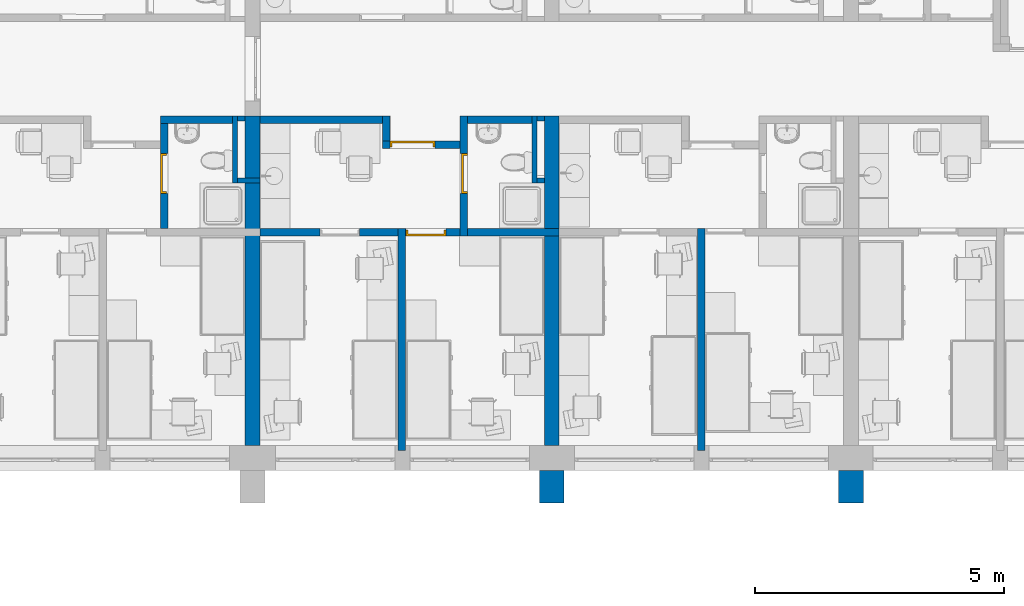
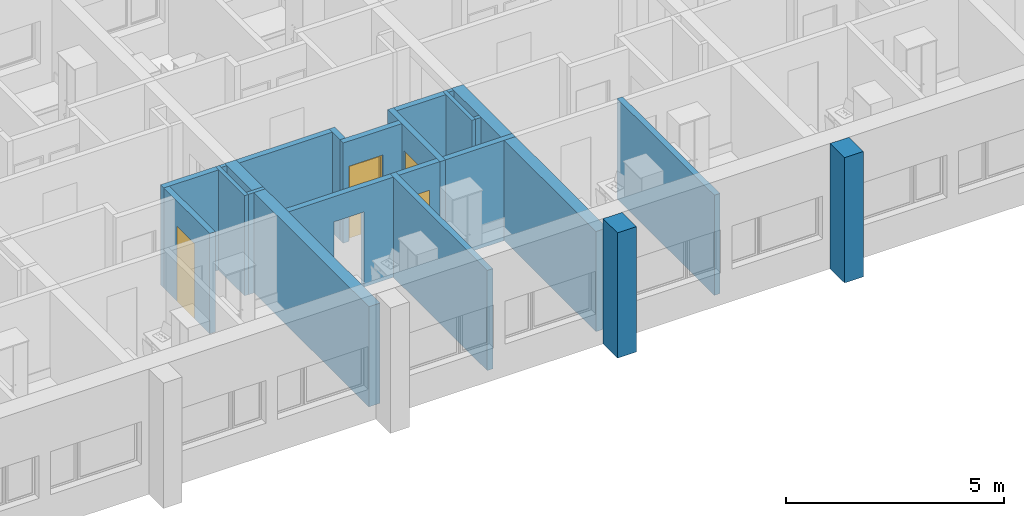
# One storey, part 6 of 152: 20 walls, 4 doors, 5 openings.
"""IFC2X3 building model written with IfcOpenShell, lengths in millimetres."""

from ifc_helpers import new_model, entity, si_unit, converted_unit, money_unit, direction, frame, origin_with_axes, place, context, subcontext, project, spatial, polyline, outline, extrude, faceted_brep, source, transform, mapped, material, material_list, layer, layer_set, layer_usage, type_object, element, fill, save


model = new_model("IFC2X3")

# Units and contexts
model_context = context("Model", 3, precision=1e-05, world=origin_with_axes(), true_north=direction((0.0, 1.0)))
body_context = subcontext(model_context, "Body", "Model", "MODEL_VIEW")
ifc_project = project(units=[si_unit("LENGTHUNIT", "METRE", prefix="MILLI"), si_unit("AREAUNIT", "SQUARE_METRE"), si_unit("VOLUMEUNIT", "CUBIC_METRE"), converted_unit("PLANEANGLEUNIT", "DEGREE", entity("IfcPlaneAngleMeasure", 0.0174532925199), si_unit("PLANEANGLEUNIT", "RADIAN"), dimensions=[0, 0, 0, 0, 0, 0, 0]), si_unit("SOLIDANGLEUNIT", "STERADIAN"), money_unit("USD"), converted_unit("TIMEUNIT", "Year", entity("IfcTimeMeasure", 31556926.0), si_unit("TIMEUNIT", "SECOND"), dimensions=[0, 0, 0, 0, 0, 0, 0]), si_unit("MASSUNIT", "GRAM"), si_unit("THERMODYNAMICTEMPERATUREUNIT", "DEGREE_CELSIUS"), si_unit("LUMINOUSINTENSITYUNIT", "LUMEN")], contexts=[model_context])

# Site, building, storey
site_placement = place(None, origin_with_axes())
site = spatial("IfcSite", under=ifc_project, at=site_placement, Name="Site", CompositionType="ELEMENT")
building_placement = place(site_placement, origin_with_axes())
building = spatial("IfcBuilding", under=site, at=building_placement, Name="Building", CompositionType="ELEMENT")
storey_placement = place(building_placement, frame((0.0, 0.0, 9500.0), z_axis=(0.0, 0.0, 1.0), x_axis=(1.0, 0.0, 0.0)))
storey = spatial("IfcBuildingStorey", under=building, at=storey_placement, Name="5KORRUS", CompositionType="ELEMENT", Elevation=9500.0)

# Walls
ifc_material_1 = material(Name="Olemasolevad seinad tellis, uus viimistlus")
ifc_layer_1 = layer(ifc_material_1, 500.0, ventilated="UNKNOWN")
ifc_layer_set_1 = layer_set([ifc_layer_1], Name="Olemasolevad seinad tellis, uus viimistlus 500")
ifc_layer_usage_1 = layer_usage(ifc_layer_set_1, "AXIS2", "POSITIVE", -100.0)
wall_type_1 = type_object("IfcWallType", Name="Olemasolevad seinad tellis, uus viimistlus 500", PredefinedType="NOTDEFINED")
wall_1_placement = place(storey_placement, frame((-23990.2967033, -20796.6419407, 0.0), z_axis=(0.0, 0.0, 1.0), x_axis=(0.0, 1.0, 0.0)))
element("IfcWallStandardCase", 1, at=wall_1_placement, inside=storey, type_object=wall_type_1, material=ifc_layer_usage_1, Name="VS1", ObjectType="VS1", context=body_context, shape_type="SweptSolid", body=[
    extrude(outline(polyline([(0.0, -100.0), (657.402041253, -100.0), (657.402041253, 400.0), (0.0, 400.0), (0.0, -100.0)])), origin_with_axes(), (0.0, 0.0, 1.0), 3500.0),
])
ifc_layer_usage_2 = layer_usage(ifc_layer_set_1, "AXIS2", "POSITIVE", -100.0)
wall_2_placement = place(storey_placement, frame((-29990.2967033, -20796.6419407, 0.0), z_axis=(0.0, 0.0, 1.0), x_axis=(0.0, 1.0, 0.0)))
element("IfcWallStandardCase", 2, at=wall_2_placement, inside=storey, type_object=wall_type_1, material=ifc_layer_usage_2, Name="VS1", ObjectType="VS1", context=body_context, shape_type="SweptSolid", body=[
    extrude(outline(polyline([(0.0, -100.0), (657.402041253, -100.0), (657.402041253, 400.0), (0.0, 400.0), (0.0, -100.0)])), origin_with_axes(), (0.0, 0.0, 1.0), 3500.0),
])
ifc_material_2 = material(Name="IFC Building Material")
ifc_layer_2 = layer(ifc_material_2, 150.0, ventilated="UNKNOWN")
ifc_layer_set_2 = layer_set([ifc_layer_2], Name="IFC Building Material 150")
ifc_layer_usage_3 = layer_usage(ifc_layer_set_2, "AXIS2", "POSITIVE", -150.0)
wall_type_2 = type_object("IfcWallType", Name="kipssein150 150", PredefinedType="NOTDEFINED")
wall_3_placement = place(storey_placement, frame((-31834.201689, -13039.3705726, 0.0), z_axis=(0.0, 0.0, 1.0), x_axis=(1.0, 0.0, 0.0)))
element("IfcWallStandardCase", 3, at=wall_3_placement, inside=storey, type_object=wall_type_2, material=ifc_layer_usage_3, Name="SS1", ObjectType="SS1", context=body_context, shape_type="SweptSolid", body=[
    extrude(outline(polyline([(0.0, -150.0), (1400.19338105, -150.0), (1400.19338105, 0.0), (0.0, 0.0), (0.0, -150.0)])), origin_with_axes(), (0.0, 0.0, 1.0), 2800.0),
])

# Wall, opening, door
ifc_layer_usage_4 = layer_usage(ifc_layer_set_2, "AXIS2", "POSITIVE", 0.0)
wall_4_placement = place(storey_placement, frame((-31984.201689, -13539.4524083, 0.0), z_axis=(0.0, 0.0, 1.0), x_axis=(-1.0, 0.0, 0.0)))
wall_4 = element("IfcWallStandardCase", 4, at=wall_4_placement, inside=storey, type_object=wall_type_2, material=ifc_layer_usage_4, Name="SS1", ObjectType="SS1", context=body_context, shape_type="SweptSolid", body=[
    extrude(outline(polyline([(0.0, 0.0), (1549.66067938, 0.0), (1549.66067938, 150.0), (0.0, 150.0), (0.0, 0.0)])), origin_with_axes(), (0.0, 0.0, 1.0), 2800.0),
])
opening_1_placement = place(wall_4_placement, frame((949.660679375, 0.0, 0.0), z_axis=(0.0, 0.0, 1.0), x_axis=(1.0, 0.0, 0.0)))
opening_1 = element("IfcOpeningElement", 5, at=opening_1_placement, cuts=wall_4, Name="SU2-6", context=body_context, shape_type="SweptSolid", body=[
    extrude(outline(polyline([(-450.0, -2100.0), (450.0, -2100.0), (450.0, 0.0), (-450.0, 0.0), (-450.0, -2100.0)])), frame((0.0, 150.0, 0.0), z_axis=(0.0, 1.0, 0.0), x_axis=(1.0, 0.0, 0.0)), (0.0, 0.0, -1.0), 450.0),
])
ifc_material_3 = material(Name="Background")
ifc_material_list = material_list([ifc_material_3])
door_style_1 = type_object("IfcDoorStyle", Name="Door 19", ConstructionType="NOTDEFINED", OperationType="SINGLE_SWING_LEFT", ParameterTakesPrecedence=False, Sizeable=False)
shared_shape_1 = source(origin_with_axes(), body_context, "Body", "Brep", [
    faceted_brep([(410.0, -40.0, 0.0), (410.0, -115.0, 0.0), (410.0, -115.0, 2060.0), (410.0, -40.0, 2060.0), (422.0, -40.0, 0.0), (422.0, 0.0, 0.0), (450.0, 0.0, 0.0), (450.0, -115.0, 0.0), (450.0, -115.0, 2060.0), (422.0, -40.0, 2060.0), (450.0, 0.0, 2060.0), (422.0, 0.0, 2060.0)], [[[0, 1, 2, 3]], [[4, 5, 6, 7, 1, 0]], [[2, 1, 7, 8]], [[9, 3, 2, 8, 10, 11]], [[9, 4, 0, 3]], [[11, 5, 4, 9]], [[11, 10, 6, 5]], [[7, 6, 10, 8]]]),
    faceted_brep([(-422.0, -40.0, 2060.0), (-422.0, 0.0, 2060.0), (-450.0, 0.0, 2060.0), (-450.0, -115.0, 2060.0), (-410.0, -115.0, 2060.0), (-410.0, -40.0, 2060.0), (-422.0, -40.0, 0.0), (-422.0, 0.0, 0.0), (-450.0, 0.0, 0.0), (-450.0, -115.0, 0.0), (-410.0, -115.0, 0.0), (-410.0, -40.0, 0.0)], [[[0, 1, 2, 3, 4, 5]], [[0, 6, 7, 1]], [[7, 8, 2, 1]], [[3, 2, 8, 9]], [[4, 3, 9, 10]], [[5, 4, 10, 11]], [[5, 11, 6, 0]], [[6, 11, 10, 9, 8, 7]]]),
    faceted_brep([(422.0, 0.0, 2072.0), (-422.0, 0.0, 2072.0), (-422.0, 0.0, 2060.0), (-450.0, 0.0, 2060.0), (-450.0, 0.0, 2100.0), (450.0, 0.0, 2100.0), (450.0, 0.0, 2060.0), (422.0, 0.0, 2060.0), (422.0, -40.0, 2072.0), (-422.0, -40.0, 2072.0), (-422.0, -40.0, 2060.0), (-410.0, -40.0, 2060.0), (-410.0, -115.0, 2060.0), (-450.0, -115.0, 2060.0), (-450.0, -115.0, 2100.0), (450.0, -115.0, 2100.0), (450.0, -115.0, 2060.0), (422.0, -40.0, 2060.0), (410.0, -115.0, 2060.0), (410.0, -40.0, 2060.0)], [[[0, 1, 2, 3, 4, 5, 6, 7]], [[0, 8, 9, 1]], [[1, 9, 10, 2]], [[10, 11, 12, 13, 3, 2]], [[14, 4, 3, 13]], [[15, 5, 4, 14]], [[16, 6, 5, 15]], [[17, 7, 6, 16, 18, 19]], [[7, 17, 8, 0]], [[10, 9, 8, 17, 19, 11]], [[19, 18, 12, 11]], [[13, 12, 18, 16, 15, 14]]]),
    faceted_brep([(-422.0, 0.0, 0.0), (422.0, 0.0, 0.0), (422.0, -40.0, 0.0), (-422.0, -40.0, 0.0), (-422.0, 0.0, 2072.0), (422.0, 0.0, 2072.0), (422.0, -40.0, 2072.0), (-422.0, -40.0, 2072.0)], [[[0, 1, 2, 3]], [[0, 4, 5, 1]], [[1, 5, 6, 2]], [[3, 2, 6, 7]], [[4, 0, 3, 7]], [[5, 4, 7, 6]]]),
])
door_1_placement = place(opening_1_placement, frame((450.0, 0.0, 0.0), z_axis=(0.0, 0.0, 1.0), x_axis=(-1.0, 0.0, 0.0)))
door_1 = element("IfcDoor", 6, at=door_1_placement, inside=storey, type_object=door_style_1, material=ifc_material_list, Name="SU2-6", ObjectType="Korteri välisuks", OverallHeight=2100.0, OverallWidth=900.0, context=body_context, shape_type="MappedRepresentation", body=[
    mapped(shared_shape_1, transform((450.0, 0.0, 0.0))),
])
fill(opening_1, door_1)

ifc_layer_usage_5 = layer_usage(ifc_layer_set_2, "AXIS2", "POSITIVE", -150.0)
wall_5_placement = place(storey_placement, frame((-31834.201689, -13039.3705726, 0.0), z_axis=(0.0, 0.0, 1.0), x_axis=(0.0, -1.0, 0.0)))
wall_5 = element("IfcWallStandardCase", 7, at=wall_5_placement, inside=storey, type_object=wall_type_2, material=ifc_layer_usage_5, Name="SS1", ObjectType="SS1", context=body_context, shape_type="SweptSolid", body=[
    extrude(outline(polyline([(0.0, -150.0), (2399.86932682, -150.0), (2399.86932682, 0.0), (0.0, 0.0), (0.0, -150.0)])), origin_with_axes(), (0.0, 0.0, 1.0), 2800.0),
])
opening_2_placement = place(wall_5_placement, frame((1150.0818357, 0.0, 0.0), z_axis=(0.0, 0.0, 1.0), x_axis=(1.0, 0.0, 0.0)))
opening_2 = element("IfcOpeningElement", 8, at=opening_2_placement, cuts=wall_5, Name="SU3-2", context=body_context, shape_type="SweptSolid", body=[
    extrude(outline(polyline([(-400.0, 0.0), (400.0, 0.0), (400.0, 2100.0), (-400.0, 2100.0), (-400.0, 0.0)])), frame((0.0, -150.0, 0.0), z_axis=(0.0, 1.0, 0.0), x_axis=(-1.0, 0.0, 0.0)), (0.0, 0.0, 1.0), 450.0),
])
door_style_2 = type_object("IfcDoorStyle", Name="Door 19", ConstructionType="NOTDEFINED", OperationType="SINGLE_SWING_RIGHT", ParameterTakesPrecedence=False, Sizeable=False)
shared_shape_2 = source(origin_with_axes(), body_context, "Body", "Brep", [
    faceted_brep([(-360.0, -75.0, 0.0), (-360.0, -75.0, 2060.0), (-360.0, -150.0, 2060.0), (-360.0, -150.0, 0.0), (-372.0, -75.0, 2060.0), (-372.0, -75.0, 0.0), (-372.0, -35.0, 2060.0), (-400.0, -35.0, 2060.0), (-400.0, -150.0, 2060.0), (-400.0, -150.0, 0.0), (-400.0, -35.0, 0.0), (-372.0, -35.0, 0.0)], [[[0, 1, 2, 3]], [[4, 1, 0, 5]], [[4, 6, 7, 8, 2, 1]], [[2, 8, 9, 3]], [[5, 0, 3, 9, 10, 11]], [[6, 4, 5, 11]], [[6, 11, 10, 7]], [[9, 8, 7, 10]]]),
    faceted_brep([(372.0, -75.0, 2060.0), (360.0, -75.0, 2060.0), (360.0, -150.0, 2060.0), (400.0, -150.0, 2060.0), (400.0, -35.0, 2060.0), (372.0, -35.0, 2060.0), (372.0, -75.0, 0.0), (360.0, -75.0, 0.0), (360.0, -150.0, 0.0), (400.0, -150.0, 0.0), (400.0, -35.0, 0.0), (372.0, -35.0, 0.0)], [[[0, 1, 2, 3, 4, 5]], [[1, 0, 6, 7]], [[1, 7, 8, 2]], [[2, 8, 9, 3]], [[3, 9, 10, 4]], [[11, 5, 4, 10]], [[0, 5, 11, 6]], [[6, 11, 10, 9, 8, 7]]]),
    faceted_brep([(-372.0, -35.0, 2072.0), (-372.0, -35.0, 2060.0), (-400.0, -35.0, 2060.0), (-400.0, -35.0, 2100.0), (400.0, -35.0, 2100.0), (400.0, -35.0, 2060.0), (372.0, -35.0, 2060.0), (372.0, -35.0, 2072.0), (-372.0, -75.0, 2072.0), (-372.0, -75.0, 2060.0), (-360.0, -75.0, 2060.0), (-360.0, -150.0, 2060.0), (-400.0, -150.0, 2060.0), (-400.0, -150.0, 2100.0), (400.0, -150.0, 2100.0), (400.0, -150.0, 2060.0), (372.0, -75.0, 2060.0), (360.0, -150.0, 2060.0), (360.0, -75.0, 2060.0), (372.0, -75.0, 2072.0)], [[[0, 1, 2, 3, 4, 5, 6, 7]], [[1, 0, 8, 9]], [[9, 10, 11, 12, 2, 1]], [[12, 13, 3, 2]], [[13, 14, 4, 3]], [[14, 15, 5, 4]], [[16, 6, 5, 15, 17, 18]], [[7, 6, 16, 19]], [[0, 7, 19, 8]], [[16, 18, 10, 9, 8, 19]], [[10, 18, 17, 11]], [[15, 14, 13, 12, 11, 17]]]),
    faceted_brep([(372.0, -35.0, 0.0), (372.0, -75.0, 0.0), (-372.0, -75.0, 0.0), (-372.0, -35.0, 0.0), (372.0, -35.0, 2072.0), (372.0, -75.0, 2072.0), (-372.0, -75.0, 2072.0), (-372.0, -35.0, 2072.0)], [[[0, 1, 2, 3]], [[4, 5, 1, 0]], [[1, 5, 6, 2]], [[3, 2, 6, 7]], [[0, 3, 7, 4]], [[7, 6, 5, 4]]]),
])
door_2_placement = place(opening_2_placement, frame((400.0, 0.0, 0.0), z_axis=(0.0, 0.0, 1.0), x_axis=(-1.0, 0.0, 0.0)))
door_2 = element("IfcDoor", 9, at=door_2_placement, inside=storey, type_object=door_style_2, material=ifc_material_list, Name="SU3-2", ObjectType="WC-uks", OverallHeight=2100.0, OverallWidth=800.0, context=body_context, shape_type="MappedRepresentation", body=[
    mapped(shared_shape_2, transform((400.0, 150.0, 0.0))),
])
fill(opening_2, door_2)

# Walls
ifc_layer_usage_6 = layer_usage(ifc_layer_set_2, "AXIS2", "POSITIVE", 0.0)
wall_6_placement = place(storey_placement, frame((-33533.8623684, -13039.2398994, 0.0), z_axis=(0.0, 0.0, 1.0), x_axis=(0.0, -1.0, 0.0)))
element("IfcWallStandardCase", 10, at=wall_6_placement, inside=storey, type_object=wall_type_2, material=ifc_layer_usage_6, Name="SS1", ObjectType="SS1", context=body_context, shape_type="SweptSolid", body=[
    extrude(outline(polyline([(0.0, 0.0), (500.212508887, 0.0), (500.212508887, 150.0), (0.0, 150.0), (0.0, 0.0)])), origin_with_axes(), (0.0, 0.0, 1.0), 2800.0),
])
ifc_layer_usage_7 = layer_usage(ifc_layer_set_2, "AXIS2", "POSITIVE", 0.0)
wall_7_placement = place(storey_placement, frame((-33533.8623684, -13039.2398994, 0.0), z_axis=(0.0, 0.0, 1.0), x_axis=(-1.0, 0.0, 0.0)))
element("IfcWallStandardCase", 11, at=wall_7_placement, inside=storey, type_object=wall_type_2, material=ifc_layer_usage_7, Name="SS1", ObjectType="SS1", context=body_context, shape_type="SweptSolid", body=[
    extrude(outline(polyline([(0.0, 0.0), (2456.43433493, 0.0), (2456.43433493, 150.0), (0.0, 150.0), (0.0, 0.0)])), origin_with_axes(), (0.0, 0.0, 1.0), 2800.0),
])
ifc_material_4 = material(Name="UmbKipsplaat")
ifc_layer_3 = layer(ifc_material_4, 13.0, ventilated="UNKNOWN")
ifc_layer_4 = layer(ifc_material_4, 13.0, ventilated="UNKNOWN")
ifc_material_5 = material(Name="SOOJUSTUS MINERAALVILL")
ifc_layer_5 = layer(ifc_material_5, 98.0, ventilated="UNKNOWN")
ifc_layer_6 = layer(ifc_material_4, 13.0, ventilated="UNKNOWN")
ifc_layer_7 = layer(ifc_material_4, 13.0, ventilated="UNKNOWN")
ifc_layer_set_3 = layer_set([ifc_layer_3, ifc_layer_4, ifc_layer_5, ifc_layer_6, ifc_layer_7], Name="kipssein150")
ifc_layer_usage_8 = layer_usage(ifc_layer_set_3, "AXIS2", "POSITIVE", 0.0)
wall_8_placement = place(storey_placement, frame((-27070.2967033, -19739.2398994, 0.0), z_axis=(0.0, 0.0, 1.0), x_axis=(0.0, 1.0, 0.0)))
element("IfcWallStandardCase", 12, at=wall_8_placement, inside=storey, type_object=wall_type_2, material=ifc_layer_usage_8, Name="SS1", ObjectType="SS1", context=body_context, shape_type="SweptSolid", body=[
    extrude(outline(polyline([(0.0, 0.0), (4453.1224396, 0.0), (4453.1224396, 150.0), (0.0, 150.0), (0.0, 0.0)])), origin_with_axes(), (0.0, 0.0, 1.0), 2800.0),
])
ifc_layer_usage_9 = layer_usage(ifc_layer_set_2, "AXIS2", "POSITIVE", 0.0)
wall_9_placement = place(storey_placement, frame((-33070.2967033, -19739.2398994, 0.0), z_axis=(0.0, 0.0, 1.0), x_axis=(0.0, 1.0, 0.0)))
element("IfcWallStandardCase", 13, at=wall_9_placement, inside=storey, type_object=wall_type_2, material=ifc_layer_usage_9, Name="SS1", ObjectType="SS1", context=body_context, shape_type="SweptSolid", body=[
    extrude(outline(polyline([(0.0, 0.0), (4450.0, 0.0), (4450.0, 150.0), (0.0, 150.0), (0.0, 0.0)])), origin_with_axes(), (0.0, 0.0, 1.0), 2800.0),
])

# Wall, openings, door
ifc_layer_usage_10 = layer_usage(ifc_layer_set_2, "AXIS2", "POSITIVE", -150.0)
wall_10_placement = place(storey_placement, frame((-29990.2967033, -15439.2398994, 0.0), z_axis=(0.0, 0.0, 1.0), x_axis=(-1.0, 0.0, 0.0)))
wall_10 = element("IfcWallStandardCase", 14, at=wall_10_placement, inside=storey, type_object=wall_type_2, material=ifc_layer_usage_10, Name="SS1", ObjectType="SS1", context=body_context, shape_type="SweptSolid", body=[
    extrude(outline(polyline([(0.0, -150.0), (6000.0, -150.0), (6000.0, 0.0), (0.0, 0.0), (0.0, -150.0)])), origin_with_axes(), (0.0, 0.0, 1.0), 2800.0),
])
opening_3_placement = place(wall_10_placement, frame((4400.0, 0.0, 0.0), z_axis=(0.0, 0.0, 1.0), x_axis=(1.0, 0.0, 0.0)))
element("IfcOpeningElement", 15, at=opening_3_placement, cuts=wall_10, Name="SU3-5", context=body_context, shape_type="SweptSolid", body=[
    extrude(outline(polyline([(-400.0, -2100.0), (400.0, -2100.0), (400.0, 0.0), (-400.0, 0.0), (-400.0, -2100.0)])), frame((0.0, -1750.0, 0.0), z_axis=(0.0, -1.0, 0.0), x_axis=(-1.0, 0.0, 0.0)), (0.0, 0.0, -1.0), 3200.0),
])
opening_4_placement = place(wall_10_placement, frame((2675.0, 0.0, 0.0), z_axis=(0.0, 0.0, 1.0), x_axis=(1.0, 0.0, 0.0)))
opening_4 = element("IfcOpeningElement", 16, at=opening_4_placement, cuts=wall_10, Name="SU3-4", context=body_context, shape_type="SweptSolid", body=[
    extrude(outline(polyline([(-400.0, -2100.0), (400.0, -2100.0), (400.0, 0.0), (-400.0, 0.0), (-400.0, -2100.0)])), frame((0.0, -150.0, 0.0), z_axis=(0.0, 1.0, 0.0), x_axis=(1.0, 0.0, 0.0)), (0.0, 0.0, 1.0), 450.0),
])
door_style_3 = type_object("IfcDoorStyle", Name="Door 19", ConstructionType="NOTDEFINED", OperationType="SINGLE_SWING_RIGHT", ParameterTakesPrecedence=False, Sizeable=False)
shared_shape_3 = source(origin_with_axes(), body_context, "Body", "Brep", [
    faceted_brep([(-360.0, -40.0, 0.0), (-360.0, -40.0, 2060.0), (-360.0, -115.0, 2060.0), (-360.0, -115.0, 0.0), (-372.0, -40.0, 2060.0), (-372.0, -40.0, 0.0), (-372.0, 0.0, 2060.0), (-400.0, 0.0, 2060.0), (-400.0, -115.0, 2060.0), (-400.0, -115.0, 0.0), (-400.0, 0.0, 0.0), (-372.0, 0.0, 0.0)], [[[0, 1, 2, 3]], [[4, 1, 0, 5]], [[4, 6, 7, 8, 2, 1]], [[2, 8, 9, 3]], [[5, 0, 3, 9, 10, 11]], [[6, 4, 5, 11]], [[6, 11, 10, 7]], [[9, 8, 7, 10]]]),
    faceted_brep([(372.0, -40.0, 2060.0), (360.0, -40.0, 2060.0), (360.0, -115.0, 2060.0), (400.0, -115.0, 2060.0), (400.0, 0.0, 2060.0), (372.0, 0.0, 2060.0), (372.0, -40.0, 0.0), (360.0, -40.0, 0.0), (360.0, -115.0, 0.0), (400.0, -115.0, 0.0), (400.0, 0.0, 0.0), (372.0, 0.0, 0.0)], [[[0, 1, 2, 3, 4, 5]], [[1, 0, 6, 7]], [[1, 7, 8, 2]], [[2, 8, 9, 3]], [[3, 9, 10, 4]], [[11, 5, 4, 10]], [[0, 5, 11, 6]], [[6, 11, 10, 9, 8, 7]]]),
    faceted_brep([(-372.0, 0.0, 2072.0), (-372.0, 0.0, 2060.0), (-400.0, 0.0, 2060.0), (-400.0, 0.0, 2100.0), (400.0, 0.0, 2100.0), (400.0, 0.0, 2060.0), (372.0, 0.0, 2060.0), (372.0, 0.0, 2072.0), (-372.0, -40.0, 2072.0), (-372.0, -40.0, 2060.0), (-360.0, -40.0, 2060.0), (-360.0, -115.0, 2060.0), (-400.0, -115.0, 2060.0), (-400.0, -115.0, 2100.0), (400.0, -115.0, 2100.0), (400.0, -115.0, 2060.0), (372.0, -40.0, 2060.0), (360.0, -115.0, 2060.0), (360.0, -40.0, 2060.0), (372.0, -40.0, 2072.0)], [[[0, 1, 2, 3, 4, 5, 6, 7]], [[1, 0, 8, 9]], [[9, 10, 11, 12, 2, 1]], [[12, 13, 3, 2]], [[13, 14, 4, 3]], [[14, 15, 5, 4]], [[16, 6, 5, 15, 17, 18]], [[7, 6, 16, 19]], [[0, 7, 19, 8]], [[16, 18, 10, 9, 8, 19]], [[10, 18, 17, 11]], [[15, 14, 13, 12, 11, 17]]]),
    faceted_brep([(372.0, 0.0, 0.0), (372.0, -40.0, 0.0), (-372.0, -40.0, 0.0), (-372.0, 0.0, 0.0), (372.0, 0.0, 2072.0), (372.0, -40.0, 2072.0), (-372.0, -40.0, 2072.0), (-372.0, 0.0, 2072.0)], [[[0, 1, 2, 3]], [[4, 5, 1, 0]], [[1, 5, 6, 2]], [[3, 2, 6, 7]], [[0, 3, 7, 4]], [[7, 6, 5, 4]]]),
])
door_3_placement = place(opening_4_placement, frame((-400.0, 0.0, 0.0), z_axis=(0.0, 0.0, 1.0), x_axis=(1.0, 0.0, 0.0)))
door_3 = element("IfcDoor", 17, at=door_3_placement, inside=storey, type_object=door_style_3, material=ifc_material_list, Name="SU3-4", ObjectType="Toa uks", OverallHeight=2100.0, OverallWidth=800.0, context=body_context, shape_type="MappedRepresentation", body=[
    mapped(shared_shape_3, transform((400.0, 0.0, 0.0))),
])
fill(opening_4, door_3)

# Wall, opening, door
ifc_layer_usage_11 = layer_usage(ifc_layer_set_3, "AXIS2", "POSITIVE", -150.0)
wall_11_placement = place(storey_placement, frame((-37984.201689, -15289.2398994, 0.0), z_axis=(0.0, 0.0, 1.0), x_axis=(0.0, 1.0, 0.0)))
wall_11 = element("IfcWallStandardCase", 18, at=wall_11_placement, inside=storey, type_object=wall_type_2, material=ifc_layer_usage_11, Name="SS1", ObjectType="SS1", context=body_context, shape_type="SweptSolid", body=[
    extrude(outline(polyline([(0.0, -150.0), (2249.86932682, -150.0), (2249.86932682, 0.0), (0.0, 0.0), (0.0, -150.0)])), origin_with_axes(), (0.0, 0.0, 1.0), 2800.0),
])
opening_5_placement = place(wall_11_placement, frame((1099.78749111, 0.0, 0.0), z_axis=(0.0, 0.0, 1.0), x_axis=(1.0, 0.0, 0.0)))
opening_5 = element("IfcOpeningElement", 19, at=opening_5_placement, cuts=wall_11, Name="SU3-2", context=body_context, shape_type="SweptSolid", body=[
    extrude(outline(polyline([(-400.0, -2100.0), (400.0, -2100.0), (400.0, 0.0), (-400.0, 0.0), (-400.0, -2100.0)])), frame((0.0, -150.0, 0.0), z_axis=(0.0, 1.0, 0.0), x_axis=(1.0, 0.0, 0.0)), (0.0, 0.0, 1.0), 450.0),
])
door_style_4 = type_object("IfcDoorStyle", Name="Door 19", ConstructionType="NOTDEFINED", OperationType="SINGLE_SWING_RIGHT", ParameterTakesPrecedence=False, Sizeable=False)
door_4_placement = place(opening_5_placement, frame((-400.0, 0.0, 0.0), z_axis=(0.0, 0.0, 1.0), x_axis=(1.0, 0.0, 0.0)))
door_4 = element("IfcDoor", 20, at=door_4_placement, inside=storey, type_object=door_style_4, material=ifc_material_list, Name="SU3-2", ObjectType="WC-uks", OverallHeight=2100.0, OverallWidth=800.0, context=body_context, shape_type="MappedRepresentation", body=[
    mapped(shared_shape_3, transform((400.0, 0.0, 0.0))),
])
fill(opening_5, door_4)

# Walls
ifc_layer_usage_12 = layer_usage(ifc_layer_set_3, "AXIS2", "POSITIVE", -150.0)
wall_12_placement = place(storey_placement, frame((-37984.201689, -13039.3705726, 0.0), z_axis=(0.0, 0.0, 1.0), x_axis=(1.0, 0.0, 0.0)))
element("IfcWallStandardCase", 21, at=wall_12_placement, inside=storey, type_object=wall_type_2, material=ifc_layer_usage_12, Name="SS1", ObjectType="SS1", context=body_context, shape_type="SweptSolid", body=[
    extrude(outline(polyline([(0.0, -150.0), (1544.19338105, -150.0), (1544.19338105, 0.0), (0.0, 0.0), (0.0, -150.0)])), origin_with_axes(), (0.0, 0.0, 1.0), 2800.0),
])
ifc_material_6 = material(Name="Olemasolevad seinad tellis, uus viimistlus")
ifc_layer_8 = layer(ifc_material_6, 300.0, ventilated="UNKNOWN")
ifc_layer_set_4 = layer_set([ifc_layer_8], Name="Olemasolevad seinad tellis, uus viimistlus  300")
ifc_layer_usage_13 = layer_usage(ifc_layer_set_4, "AXIS2", "POSITIVE", 0.0)
wall_type_3 = type_object("IfcWallType", Name="Olemasolevad seinad tellis, uus viimistlus  300", PredefinedType="NOTDEFINED")
wall_13_placement = place(storey_placement, frame((-35990.2967033, -19639.2398994, 0.0), z_axis=(0.0, 0.0, 1.0), x_axis=(0.0, 1.0, 0.0)))
element("IfcWallStandardCase", 22, at=wall_13_placement, inside=storey, type_object=wall_type_3, material=ifc_layer_usage_13, Name="KS1", ObjectType="KS1", context=body_context, shape_type="SweptSolid", body=[
    extrude(outline(polyline([(0.0, 0.0), (6602.86932682, 0.0), (6602.86932682, 300.0), (0.0, 300.0), (0.0, 0.0)])), origin_with_axes(), (0.0, 0.0, 1.0), 2800.0),
])
ifc_layer_usage_14 = layer_usage(ifc_layer_set_4, "AXIS2", "POSITIVE", 0.0)
wall_14_placement = place(storey_placement, frame((-29990.2967033, -19639.2398994, 0.0), z_axis=(0.0, 0.0, 1.0), x_axis=(0.0, 1.0, 0.0)))
element("IfcWallStandardCase", 23, at=wall_14_placement, inside=storey, type_object=wall_type_3, material=ifc_layer_usage_14, Name="KS1", ObjectType="KS1", context=body_context, shape_type="SweptSolid", body=[
    extrude(outline(polyline([(0.0, 0.0), (6602.86932682, 0.0), (6602.86932682, 300.0), (0.0, 300.0), (0.0, 0.0)])), origin_with_axes(), (0.0, 0.0, 1.0), 2800.0),
])
ifc_material_7 = material(Name="krohv")
ifc_layer_9 = layer(ifc_material_7, 2.0, ventilated="UNKNOWN")
ifc_layer_10 = layer(ifc_material_7, 10.0, ventilated="UNKNOWN")
ifc_material_8 = material(Name="Kergplokk")
ifc_layer_11 = layer(ifc_material_8, 76.0, ventilated="UNKNOWN")
ifc_layer_12 = layer(ifc_material_7, 10.0, ventilated="UNKNOWN")
ifc_layer_13 = layer(ifc_material_7, 2.0, ventilated="UNKNOWN")
ifc_layer_set_5 = layer_set([ifc_layer_9, ifc_layer_10, ifc_layer_11, ifc_layer_12, ifc_layer_13], Name="Kergplokk Bauroc 100")
ifc_layer_usage_15 = layer_usage(ifc_layer_set_5, "AXIS2", "POSITIVE", -100.0)
wall_type_4 = type_object("IfcWallType", Name="Kergplokk Bauroc 100 100", PredefinedType="NOTDEFINED")
wall_15_placement = place(storey_placement, frame((-35990.2967033, -14380.4716262, 0.0), z_axis=(0.0, 0.0, 1.0), x_axis=(-1.0, 0.0, 0.0)))
element("IfcWallStandardCase", 24, at=wall_15_placement, inside=storey, type_object=wall_type_4, material=ifc_layer_usage_15, Name="SS2", ObjectType="SS2", context=body_context, shape_type="SweptSolid", body=[
    extrude(outline(polyline([(0.0, -100.0), (449.711604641, -100.0), (449.711604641, 0.0), (0.0, 0.0), (0.0, -100.0)])), origin_with_axes(), (0.0, 0.0, 1.0), 2800.0),
])
ifc_layer_14 = layer(ifc_material_2, 100.0, ventilated="UNKNOWN")
ifc_layer_set_6 = layer_set([ifc_layer_14], Name="IFC Building Material 100")
ifc_layer_usage_16 = layer_usage(ifc_layer_set_6, "AXIS2", "POSITIVE", -100.0)
wall_16_placement = place(storey_placement, frame((-30284.008308, -14380.4716262, 0.0), z_axis=(0.0, 0.0, 1.0), x_axis=(-1.0, 0.0, 0.0)))
element("IfcWallStandardCase", 25, at=wall_16_placement, inside=storey, type_object=wall_type_4, material=ifc_layer_usage_16, Name="SS2", ObjectType="SS2", context=body_context, shape_type="SweptSolid", body=[
    extrude(outline(polyline([(0.0, -100.0), (150.0, -100.0), (150.0, 0.0), (0.0, 0.0), (0.0, -100.0)])), origin_with_axes(), (0.0, 0.0, 1.0), 2800.0),
])
ifc_layer_usage_17 = layer_usage(ifc_layer_set_6, "AXIS2", "POSITIVE", -100.0)
wall_17_placement = place(storey_placement, frame((-30434.008308, -13039.3705726, 0.0), z_axis=(0.0, 0.0, 1.0), x_axis=(0.0, -1.0, 0.0)))
element("IfcWallStandardCase", 26, at=wall_17_placement, inside=storey, type_object=wall_type_4, material=ifc_layer_usage_17, Name="SS2", ObjectType="SS2", context=body_context, shape_type="SweptSolid", body=[
    extrude(outline(polyline([(0.0, -100.0), (1341.10105359, -100.0), (1341.10105359, 0.0), (0.0, 0.0), (0.0, -100.0)])), origin_with_axes(), (0.0, 0.0, 1.0), 2800.0),
])
ifc_layer_usage_18 = layer_usage(ifc_layer_set_5, "AXIS2", "POSITIVE", -100.0)
wall_18_placement = place(storey_placement, frame((-36440.008308, -13039.3705726, 0.0), z_axis=(0.0, 0.0, 1.0), x_axis=(1.0, 0.0, 0.0)))
element("IfcWallStandardCase", 27, at=wall_18_placement, inside=storey, type_object=wall_type_4, material=ifc_layer_usage_18, Name="SS2", ObjectType="SS2", context=body_context, shape_type="SweptSolid", body=[
    extrude(outline(polyline([(0.0, -100.0), (149.711604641, -100.0), (149.711604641, 0.0), (0.0, 0.0), (0.0, -100.0)])), origin_with_axes(), (0.0, 0.0, 1.0), 2800.0),
])
ifc_layer_usage_19 = layer_usage(ifc_layer_set_6, "AXIS2", "POSITIVE", -100.0)
wall_19_placement = place(storey_placement, frame((-30434.008308, -13039.3705726, 0.0), z_axis=(0.0, 0.0, 1.0), x_axis=(1.0, 0.0, 0.0)))
element("IfcWallStandardCase", 28, at=wall_19_placement, inside=storey, type_object=wall_type_4, material=ifc_layer_usage_19, Name="SS2", ObjectType="SS2", context=body_context, shape_type="SweptSolid", body=[
    extrude(outline(polyline([(0.0, -100.0), (143.711604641, -100.0), (143.711604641, 0.0), (0.0, 0.0), (0.0, -100.0)])), origin_with_axes(), (0.0, 0.0, 1.0), 2800.0),
])
ifc_layer_usage_20 = layer_usage(ifc_layer_set_5, "AXIS2", "POSITIVE", -100.0)
wall_20_placement = place(storey_placement, frame((-36440.008308, -13039.3705726, 0.0), z_axis=(0.0, 0.0, 1.0), x_axis=(0.0, -1.0, 0.0)))
element("IfcWallStandardCase", 29, at=wall_20_placement, inside=storey, type_object=wall_type_4, material=ifc_layer_usage_20, Name="SS2", ObjectType="SS2", context=body_context, shape_type="SweptSolid", body=[
    extrude(outline(polyline([(0.0, -100.0), (1341.10105359, -100.0), (1341.10105359, 0.0), (0.0, 0.0), (0.0, -100.0)])), origin_with_axes(), (0.0, 0.0, 1.0), 2800.0),
])

save(model, "model.ifc")
